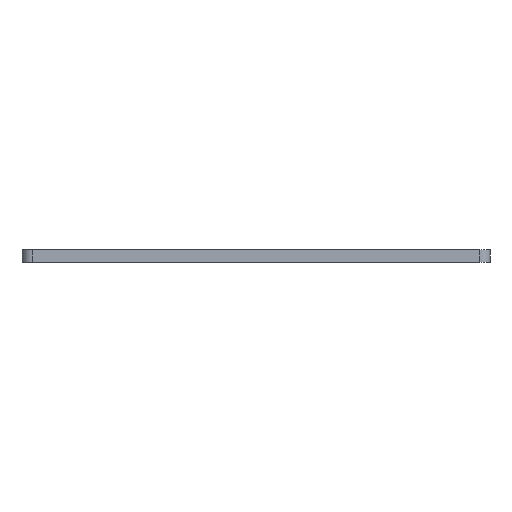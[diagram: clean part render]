
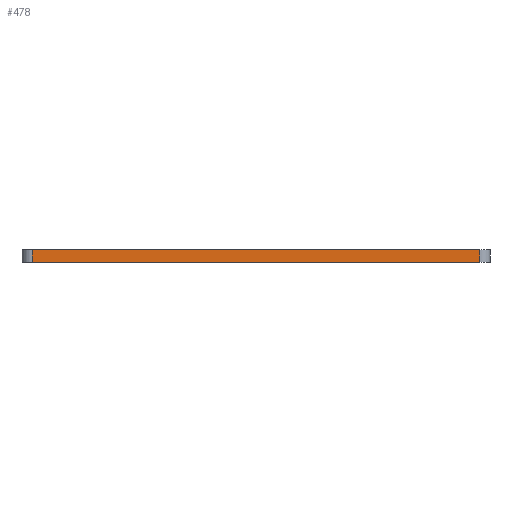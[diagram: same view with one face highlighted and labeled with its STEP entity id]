
A CAD part, front view. The second image highlights one B-rep face of the part: STEP entity #478.
In plain terms, the highlighted planar face has unit normal (0, -1, 0).
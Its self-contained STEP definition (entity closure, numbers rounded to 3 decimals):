
#17 = LINE ( 'NONE', #181, #249 ) ;
#39 = ORIENTED_EDGE ( 'NONE', *, *, #660, .T. ) ;
#44 = DIRECTION ( 'NONE',  ( 0., 1., 0. ) ) ;
#46 = EDGE_CURVE ( 'NONE', #268, #343, #468, .T. ) ;
#81 = VECTOR ( 'NONE', #531, 1000. ) ;
#106 = EDGE_CURVE ( 'NONE', #268, #208, #547, .T. ) ;
#110 = PLANE ( 'NONE',  #779 ) ;
#149 = ORIENTED_EDGE ( 'NONE', *, *, #276, .F. ) ;
#156 = CARTESIAN_POINT ( 'NONE',  ( -154.967, 4.855, 3. ) ) ;
#181 = CARTESIAN_POINT ( 'NONE',  ( 0., 4.855, 0. ) ) ;
#188 = FACE_OUTER_BOUND ( 'NONE', #497, .T. ) ;
#208 = VERTEX_POINT ( 'NONE', #715 ) ;
#215 = CARTESIAN_POINT ( 'NONE',  ( -154.967, 4.855, 0. ) ) ;
#216 = VERTEX_POINT ( 'NONE', #523 ) ;
#249 = VECTOR ( 'NONE', #629, 1000. ) ;
#268 = VERTEX_POINT ( 'NONE', #452 ) ;
#276 = EDGE_CURVE ( 'NONE', #208, #216, #334, .T. ) ;
#311 = DIRECTION ( 'NONE',  ( 1., 0., 0. ) ) ;
#334 = LINE ( 'NONE', #390, #81 ) ;
#343 = VERTEX_POINT ( 'NONE', #215 ) ;
#390 = CARTESIAN_POINT ( 'NONE',  ( -43.967, 4.855, 3. ) ) ;
#391 = VECTOR ( 'NONE', #434, 1000. ) ;
#404 = VECTOR ( 'NONE', #311, 1000. ) ;
#428 = CARTESIAN_POINT ( 'NONE',  ( 0., 4.855, 3. ) ) ;
#431 = DIRECTION ( 'NONE',  ( -1., 0., 0. ) ) ;
#434 = DIRECTION ( 'NONE',  ( 0., 0., -1. ) ) ;
#452 = CARTESIAN_POINT ( 'NONE',  ( -154.967, 4.855, 3. ) ) ;
#468 = LINE ( 'NONE', #156, #391 ) ;
#478 = ADVANCED_FACE ( 'NONE', ( #188 ), #110, .F. ) ;
#497 = EDGE_LOOP ( 'NONE', ( #39, #149, #801, #698 ) ) ;
#523 = CARTESIAN_POINT ( 'NONE',  ( -43.967, 4.855, 0. ) ) ;
#531 = DIRECTION ( 'NONE',  ( 0., 0., -1. ) ) ;
#547 = LINE ( 'NONE', #697, #404 ) ;
#629 = DIRECTION ( 'NONE',  ( 1., 0., 0. ) ) ;
#660 = EDGE_CURVE ( 'NONE', #343, #216, #17, .T. ) ;
#697 = CARTESIAN_POINT ( 'NONE',  ( 0., 4.855, 3. ) ) ;
#698 = ORIENTED_EDGE ( 'NONE', *, *, #46, .T. ) ;
#715 = CARTESIAN_POINT ( 'NONE',  ( -43.967, 4.855, 3. ) ) ;
#779 = AXIS2_PLACEMENT_3D ( 'NONE', #428, #44, #431 ) ;
#801 = ORIENTED_EDGE ( 'NONE', *, *, #106, .F. ) ;
